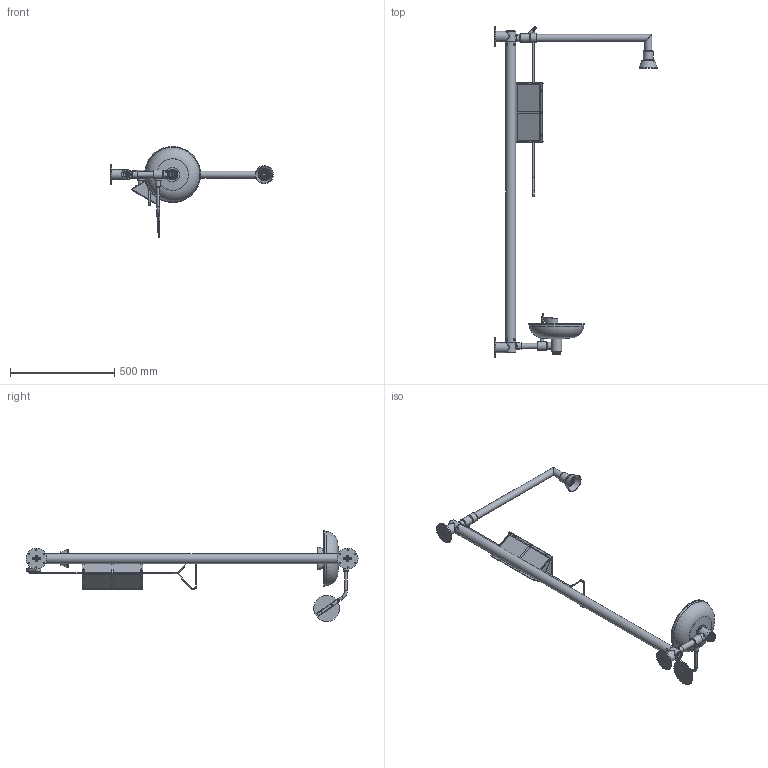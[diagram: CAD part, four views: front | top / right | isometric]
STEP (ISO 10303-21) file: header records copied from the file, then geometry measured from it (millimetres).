
FILE_DESCRIPTION (( 'STEP AP214' ), '1' );
FILE_NAME ('28433031021000.STEP', '2026-06-26T06:35:37', ( '' ), ( '' ), 'SwSTEP 2.0', 'SolidWorks 2022', '' );
FILE_SCHEMA (( 'AUTOMOTIVE_DESIGN' ));
Length unit declared in the file: millimetre
Products named in the file (1): 28433031021000
Bounding box: 781.07 x 1594.5 x 436.19 mm (x, y, z)
Surface area: 1051534.7 mm2 (no closed solid volume)
Topology: 0 solids, 153 shells, 508 faces, 2554 edges, 2117 vertices
Faces by surface type: plane 181, cylinder 117, cone 94, bspline 61, torus 52, sphere 3
Full cylindrical faces by diameter (mm): 1.4 x3, 5 x1, 5.5 x11, 5.99 x1, 6 x6, 6.5 x4, 8 x1, 9 x5, 10 x2, 10.5 x6, 12 x1, 12.5 x4, 13 x2, 13.904 x1, 14.5 x1, 18.7 x1, 23.5 x1, 24.2 x1, 25 x3, 25.75 x1, 27.8 x1, 30 x7, 30.45 x1, 30.5 x1, 33 x1, 33.18 x1, 33.4 x1, 33.7 x2, 34 x1, 36 x5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
Entity records: 50768 total; most frequent: CARTESIAN_POINT 27891, DIRECTION 3132, ORIENTED_EDGE 2677, EDGE_CURVE 2213, VERTEX_POINT 2022, AXIS2_PLACEMENT_3D 1100, EDGE_LOOP 973, LINE 932
